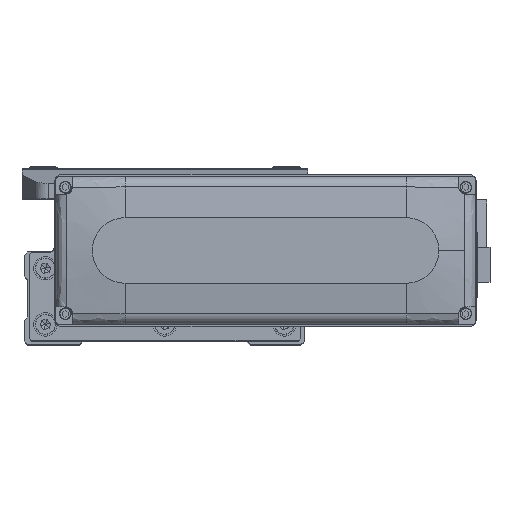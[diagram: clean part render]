
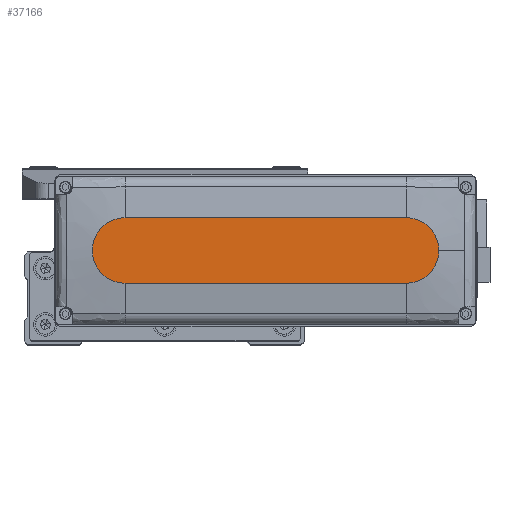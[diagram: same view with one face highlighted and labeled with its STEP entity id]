
A CAD part, top view. The second image highlights one B-rep face of the part: STEP entity #37166.
In plain terms, the highlighted planar face has unit normal (0, 0, 1).
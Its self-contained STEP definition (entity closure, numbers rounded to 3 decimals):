
#167 = AXIS2_PLACEMENT_3D ( 'NONE', #22081, #34964, #6124 ) ;
#747 = CARTESIAN_POINT ( 'NONE',  ( 60., -14., 28.5 ) ) ;
#1351 = DIRECTION ( 'NONE',  ( 1., 0., 0. ) ) ;
#1837 = VERTEX_POINT ( 'NONE', #13944 ) ;
#2563 = AXIS2_PLACEMENT_3D ( 'NONE', #17297, #30138, #1351 ) ;
#3115 = VERTEX_POINT ( 'NONE', #39397 ) ;
#4338 = LINE ( 'NONE', #17147, #26776 ) ;
#4413 = VERTEX_POINT ( 'NONE', #747 ) ;
#5125 = DIRECTION ( 'NONE',  ( 1., 0., 0. ) ) ;
#5942 = DIRECTION ( 'NONE',  ( -1., 0., 0. ) ) ;
#6124 = DIRECTION ( 'NONE',  ( 1., 0., 0. ) ) ;
#6138 = CARTESIAN_POINT ( 'NONE',  ( 0., 0., 28.5 ) ) ;
#6755 = CARTESIAN_POINT ( 'NONE',  ( 74., 0., 28.5 ) ) ;
#8794 = ORIENTED_EDGE ( 'NONE', *, *, #20254, .T. ) ;
#8851 = EDGE_CURVE ( 'NONE', #4413, #12324, #20642, .T. ) ;
#8885 = ORIENTED_EDGE ( 'NONE', *, *, #8851, .T. ) ;
#9105 = CARTESIAN_POINT ( 'NONE',  ( -60., -14., 28.5 ) ) ;
#9917 = VERTEX_POINT ( 'NONE', #9105 ) ;
#11994 = ORIENTED_EDGE ( 'NONE', *, *, #27963, .T. ) ;
#12324 = VERTEX_POINT ( 'NONE', #6755 ) ;
#13944 = CARTESIAN_POINT ( 'NONE',  ( 60., 14., 28.5 ) ) ;
#17147 = CARTESIAN_POINT ( 'NONE',  ( -60., -14., 28.5 ) ) ;
#17297 = CARTESIAN_POINT ( 'NONE',  ( 60., 0., 28.5 ) ) ;
#17517 = EDGE_LOOP ( 'NONE', ( #8794, #11994, #17624, #8885, #41087 ) ) ;
#17624 = ORIENTED_EDGE ( 'NONE', *, *, #26116, .T. ) ;
#18267 = CIRCLE ( 'NONE', #167, 14. ) ;
#18942 = DIRECTION ( 'NONE',  ( 0., 0., 1. ) ) ;
#20254 = EDGE_CURVE ( 'NONE', #1837, #3115, #21895, .T. ) ;
#20642 = CIRCLE ( 'NONE', #2563, 14. ) ;
#21075 = CARTESIAN_POINT ( 'NONE',  ( -60., 0., 28.5 ) ) ;
#21767 = EDGE_CURVE ( 'NONE', #12324, #1837, #18267, .T. ) ;
#21895 = LINE ( 'NONE', #34775, #26230 ) ;
#22081 = CARTESIAN_POINT ( 'NONE',  ( 60., 0., 28.5 ) ) ;
#22094 = FACE_OUTER_BOUND ( 'NONE', #17517, .T. ) ;
#26116 = EDGE_CURVE ( 'NONE', #9917, #4413, #4338, .T. ) ;
#26230 = VECTOR ( 'NONE', #5942, 1000. ) ;
#26776 = VECTOR ( 'NONE', #29981, 1000. ) ;
#27963 = EDGE_CURVE ( 'NONE', #3115, #9917, #34245, .T. ) ;
#29981 = DIRECTION ( 'NONE',  ( 1., 0., 0. ) ) ;
#30138 = DIRECTION ( 'NONE',  ( 0., 0., 1. ) ) ;
#31798 = DIRECTION ( 'NONE',  ( 1., 0., 0. ) ) ;
#33962 = DIRECTION ( 'NONE',  ( 0., 0., 1. ) ) ;
#34245 = CIRCLE ( 'NONE', #39614, 14. ) ;
#34775 = CARTESIAN_POINT ( 'NONE',  ( -60., 14., 28.5 ) ) ;
#34964 = DIRECTION ( 'NONE',  ( 0., 0., 1. ) ) ;
#34972 = PLANE ( 'NONE',  #36100 ) ;
#36100 = AXIS2_PLACEMENT_3D ( 'NONE', #6138, #18942, #31798 ) ;
#37166 = ADVANCED_FACE ( 'NONE', ( #22094 ), #34972, .T. ) ;
#39397 = CARTESIAN_POINT ( 'NONE',  ( -60., 14., 28.5 ) ) ;
#39614 = AXIS2_PLACEMENT_3D ( 'NONE', #21075, #33962, #5125 ) ;
#41087 = ORIENTED_EDGE ( 'NONE', *, *, #21767, .T. ) ;
